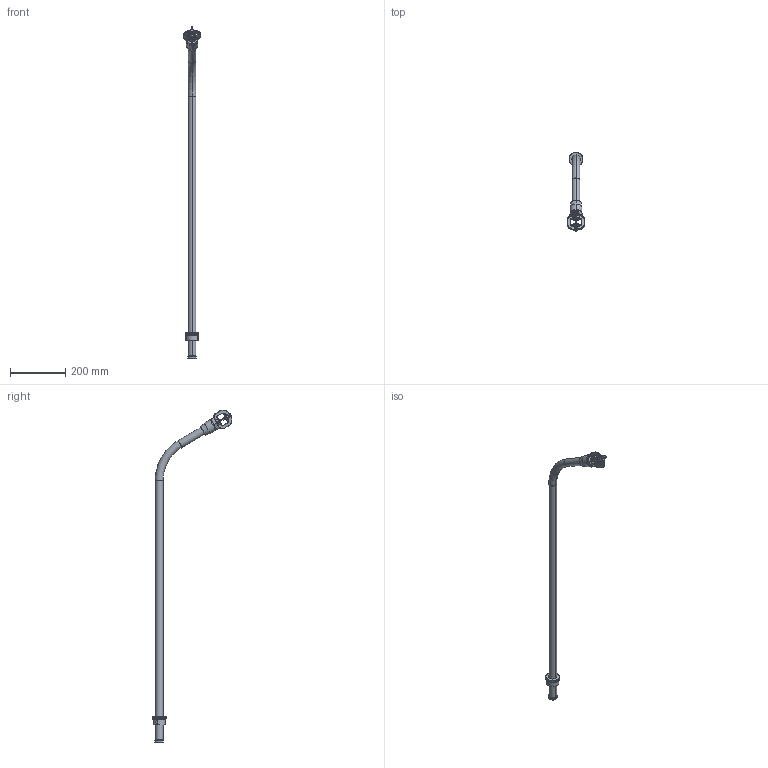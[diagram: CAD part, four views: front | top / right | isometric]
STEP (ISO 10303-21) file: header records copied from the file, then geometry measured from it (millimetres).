
FILE_DESCRIPTION((''),'2;1');
FILE_NAME('24150001_10','2018-10-03T',('sobrien2'),(''),'CREO PARAMETRIC BY PTC INC, 2015290','CREO PARAMETRIC BY PTC INC, 2015290','');
FILE_SCHEMA(('CONFIG_CONTROL_DESIGN'));
Length unit declared in the file: inch
Products named in the file (1): 24150001_10
Bounding box: 63.42 x 288.32 x 1199.69 mm (x, y, z)
Surface area: 236219.6 mm2 (no closed solid volume)
Topology: 0 solids, 19 shells, 448 faces, 1851 edges, 1367 vertices
Faces by surface type: plane 160, cylinder 146, cone 60, bspline 50, torus 32
Entity records: 24807 total; most frequent: CARTESIAN_POINT 10918, ORIENTED_EDGE 2834, DIRECTION 2477, EDGE_CURVE 1849, VERTEX_POINT 1367, AXIS2_PLACEMENT_3D 828, VECTOR 821, LINE 821
